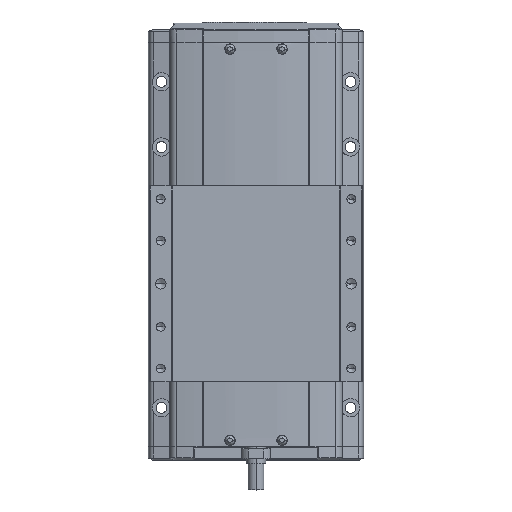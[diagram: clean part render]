
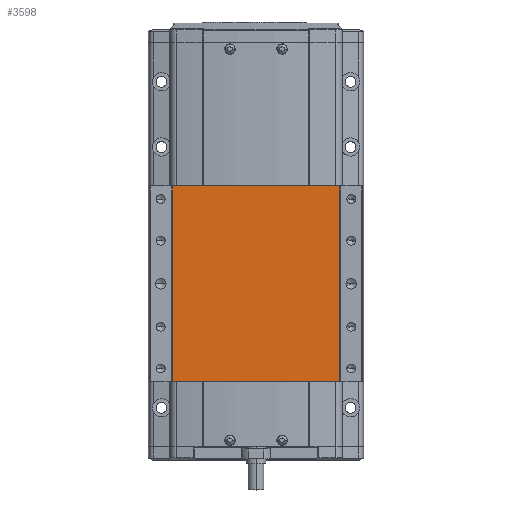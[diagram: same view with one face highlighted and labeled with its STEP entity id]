
A CAD part, top view. The second image highlights one B-rep face of the part: STEP entity #3598.
In plain terms, the highlighted planar face has unit normal (0, 0, 1).
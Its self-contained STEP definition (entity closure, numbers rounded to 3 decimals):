
#3598=ADVANCED_FACE('',(#8149),#8150,.F.);
#8149=FACE_OUTER_BOUND('',#14822,.T.);
#8150=PLANE('',#14823);
#14822=EDGE_LOOP('',(#26880,#26881,#26882,#26883));
#14823=AXIS2_PLACEMENT_3D('',#26884,#26885,#26886);
#26880=ORIENTED_EDGE('',*,*,#39609,.F.);
#26881=ORIENTED_EDGE('',*,*,#39610,.F.);
#26882=ORIENTED_EDGE('',*,*,#36796,.F.);
#26883=ORIENTED_EDGE('',*,*,#39611,.T.);
#26884=CARTESIAN_POINT('',(-600.,347.222,51.5));
#26885=DIRECTION('',(0.,0.,-1.0));
#26886=DIRECTION('',(-1.0,0.,0.));
#36796=EDGE_CURVE('',#44376,#44378,#44379,.T.);
#39609=EDGE_CURVE('',#48745,#48746,#48747,.T.);
#39610=EDGE_CURVE('',#44378,#48745,#48748,.T.);
#39611=EDGE_CURVE('',#44376,#48746,#48749,.T.);
#44376=VERTEX_POINT('',#55124);
#44378=VERTEX_POINT('',#55126);
#44379=LINE('',#55127,#55128);
#48745=VERTEX_POINT('',#61830);
#48746=VERTEX_POINT('',#61831);
#48747=LINE('',#61832,#61833);
#48748=LINE('',#61834,#61835);
#48749=LINE('',#61836,#61837);
#55124=CARTESIAN_POINT('',(-535.624,347.222,51.5));
#55126=CARTESIAN_POINT('',(-664.376,347.222,51.5));
#55127=CARTESIAN_POINT('',(-535.624,347.222,51.5));
#55128=VECTOR('',#67400,10.0);
#61830=CARTESIAN_POINT('',(-664.376,497.222,51.5));
#61831=CARTESIAN_POINT('',(-535.624,497.222,51.5));
#61832=CARTESIAN_POINT('',(-535.624,497.222,51.5));
#61833=VECTOR('',#70778,10.0);
#61834=CARTESIAN_POINT('',(-664.376,347.222,51.5));
#61835=VECTOR('',#70779,10.0);
#61836=CARTESIAN_POINT('',(-535.624,347.222,51.5));
#61837=VECTOR('',#70780,10.0);
#67400=DIRECTION('',(-1.0,0.,0.));
#70778=DIRECTION('',(1.0,0.,0.));
#70779=DIRECTION('',(0.,1.0,0.));
#70780=DIRECTION('',(0.,1.0,0.));
